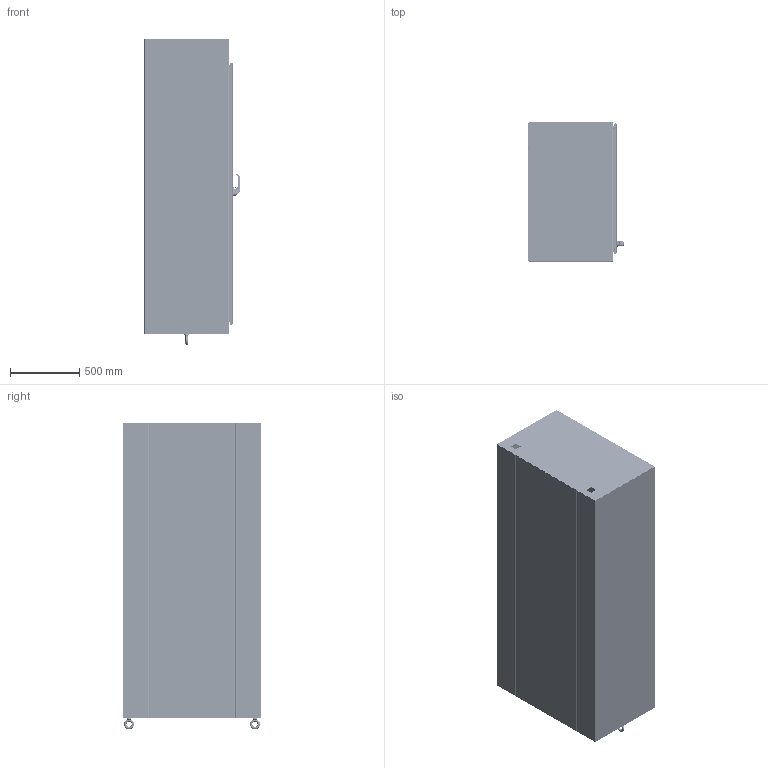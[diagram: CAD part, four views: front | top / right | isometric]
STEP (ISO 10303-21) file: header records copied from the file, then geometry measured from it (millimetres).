
FILE_DESCRIPTION((''),'2;1');
FILE_NAME('MODEL-436_ASM','2025-04-02T09:01:53',('joshi'),('SAGINAW CONTROL & ENGINEERING'),'CREO PARAMETRIC BY PTC INC, 2021284','CREO PARAMETRIC BY PTC INC, 2021284','');
FILE_SCHEMA(('AUTOMOTIVE_DESIGN { 1 0 10303 214 1 1 1 1 }'));
Length unit declared in the file: inch
Products named in the file (63): MODEL-436-L-SD; MODEL-436-TP; MODEL-436-R-SD; MODEL-436-BTM; MODEL-436-DR; 100837; 111267; 100882; 100953_SCREW_MTG; 100953_PADLOCK_CATCH; 100953_SCREW_LARGE; 100953_INSERT_SHAFT; 100953_INSERT_PCH; 100953_GASKET; 100953_O-RING; 100953_BASE; 100953_SPRING; 100953_HANDLE; 100953_CAM_SHAFT; 100953_HANDLE_ASM; 100953_CAM_ADAPTER; 100953_EARTH_NUT; 100953_FLANGE_NUT; 100953_CAM_NUT; 100953_CP_INSERT; 100953_SPRING_CAM; 100953_TORSION_SPRING; 100953_SCREW_INSERT; 100953_ASM; 102237; 100030; 102237_ASM; MODEL-436-ROD-UPR; 128146; 128145; 128144; 102482; MODEL-436-ROD-UPR_ASM; 128143; 112504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
Assembly tree (128 placements, depth 5):
  MODEL-436_ASM
    MODEL-436-L-SD
    MODEL-436-TP
    MODEL-436-R-SD
    MODEL-436-BTM
    MODEL-436-DOOR-ASSY_ASM
      MODEL-436-DR
      100837  x7
      111267
      100882  x12
      100953_ASM
        100953_SCREW_MTG
        100953_PADLOCK_CATCH
        100953_SCREW_LARGE  x2
        100953_INSERT_SHAFT
        100953_INSERT_PCH
        100953_GASKET
        100953_O-RING
        100953_BASE
        100953_SPRING
        100953_HANDLE_ASM
          100953_HANDLE
          100953_CAM_SHAFT
        100953_CAM_ADAPTER
        100953_EARTH_NUT
        100953_FLANGE_NUT
        100953_CAM_NUT
        100953_CP_INSERT
        100953_SPRING_CAM
        100953_TORSION_SPRING
        100953_SCREW_INSERT
      102237_ASM
        102237
        100030  x2
      MODEL-436-ROD-UPR_ASM
        MODEL-436-ROD-UPR
        128146
        128145
        128144
        102482  x2
      128143  x2
      112504  x2
      MODEL-436-ROD-LWR_ASM
        MODEL-436-ROD-LWR
        128146
        128145
        128144
        102482  x2
      MODEL-436-PR-GSKT
      128257_ASM  x4
        128257
      126393  x4
      102483  x4
      101369_ASM  x4
        101369
        101369-STUD
      101221  x4
    MODEL-436-BCK
    100837  x4
    103357
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Bounding box: 687.67 x 1003.3 x 2212.64 mm (x, y, z)
Volume: 29178729.1 mm3; surface area: 21150279.2 mm2
Topology: 133 solids, 133 shells, 12560 faces, 31874 edges, 19646 vertices
Faces by surface type: plane 4232, cylinder 3318, bspline 3010, torus 940, cone 700, sphere 330, extrusion 30
Entity records: 363960 total; most frequent: CARTESIAN_POINT 150265, ORIENTED_EDGE 33290, DIRECTION 30272, PRESENTATION_STYLE_ASSIGNMENT 16678, STYLED_ITEM 16673, EDGE_CURVE 16645, CURVE_STYLE 16597, AXIS2_PLACEMENT_3D 11380
